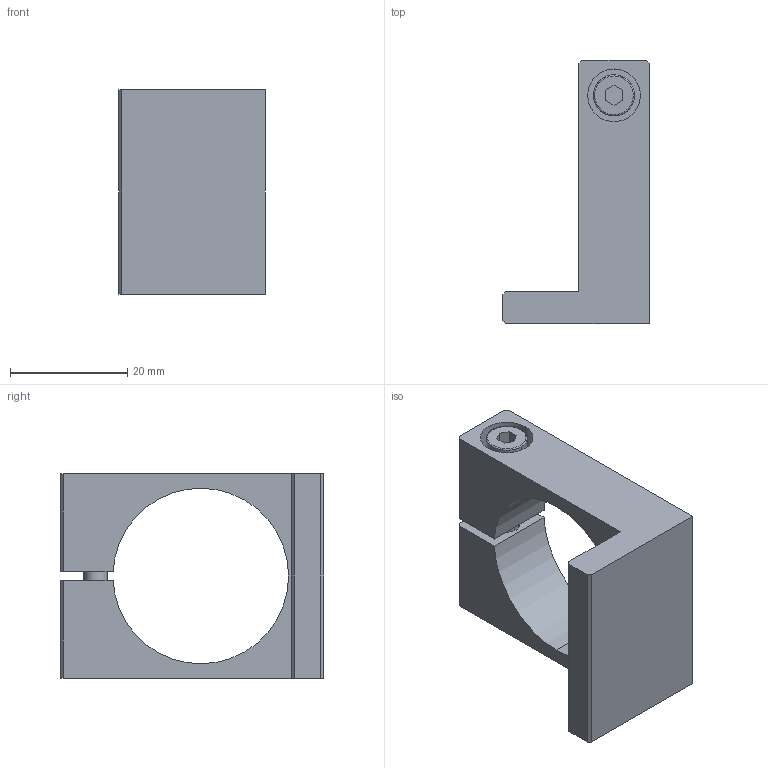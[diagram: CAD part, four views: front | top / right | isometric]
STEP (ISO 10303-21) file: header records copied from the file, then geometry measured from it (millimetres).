
FILE_DESCRIPTION (( 'STEP AP214' ), '1' );
FILE_NAME ('GP2-30.STEP', '2019-11-13T03:17:12', ( '微软用户' ), ( '微软中国' ), 'SwSTEP 2.0', 'SolidWorks 2016', '' );
FILE_SCHEMA (( 'AUTOMOTIVE_DESIGN' ));
Length unit declared in the file: millimetre
Products named in the file (1): GP2-30
Bounding box: 25 x 45 x 35 mm (x, y, z)
Volume: 12333.8 mm3; surface area: 6889.8 mm2
Topology: 3 solids, 3 shells, 241 faces, 690 edges, 456 vertices
Faces by surface type: plane 220, cylinder 17, cone 2, bspline 2
Entity records: 10728 total; most frequent: CARTESIAN_POINT 1512, DIRECTION 1386, ORIENTED_EDGE 1380, EDGE_CURVE 690, LINE 466, VECTOR 466, AXIS2_PLACEMENT_3D 460, VERTEX_POINT 456
